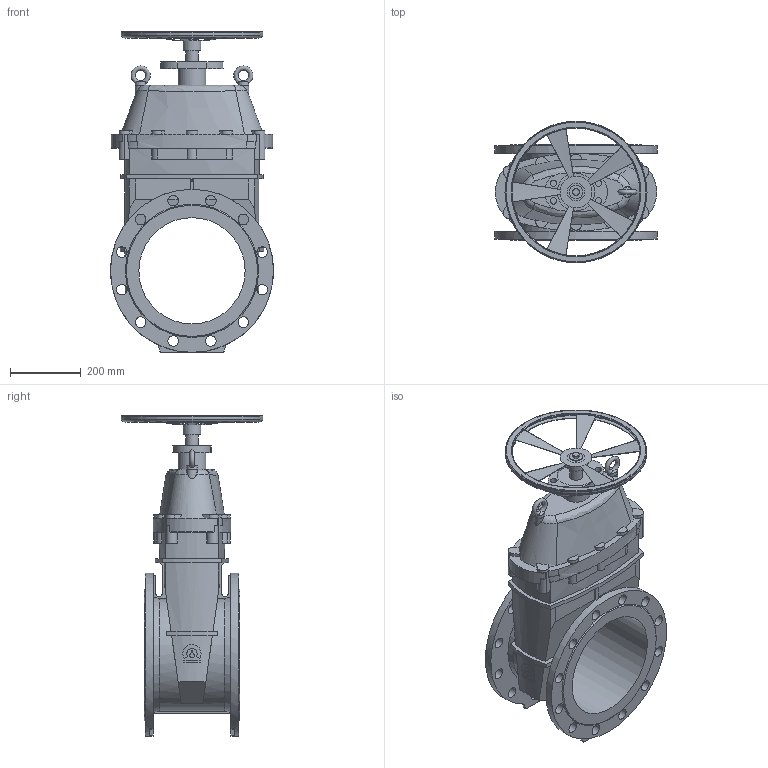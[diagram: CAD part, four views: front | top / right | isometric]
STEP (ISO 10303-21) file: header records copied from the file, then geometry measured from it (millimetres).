
FILE_DESCRIPTION(('STEP AP203'), '1');
FILE_NAME('Çàäâèæêà 47GV.M DN300 ñ ìàõîâèêîì', '', ('UNSPECIFIED'), ('UNSPECIFIED'), 'ASCON STEP Converter 1.6', 'ASCON Math Kernel', '');
FILE_SCHEMA(('CONFIG_CONTROL_DESIGN'));
Length unit declared in the file: millimetre
Bounding box: 460 x 400 x 905 mm (x, y, z)
Volume: 31571629.1 mm3; surface area: 1687413.8 mm2
Topology: 1 solids, 1 shells, 330 faces, 903 edges, 582 vertices
Faces by surface type: plane 158, cylinder 126, cone 26, bspline 12, torus 8
Full cylindrical faces by diameter (mm): 18 x4, 30 x24, 36 x1, 37 x1, 50 x1, 79 x1, 106 x1, 300 x1, 363 x1, 397 x1, 400 x1, 460 x2
Entity records: 33531 total; most frequent: CARTESIAN_POINT 22642, ORIENTED_EDGE 1692, DIRECTION 1671, EDGE_CURVE 846, AXIS2_PLACEMENT_3D 650, VERTEX_POINT 580, EDGE_LOOP 460, LINE 371
